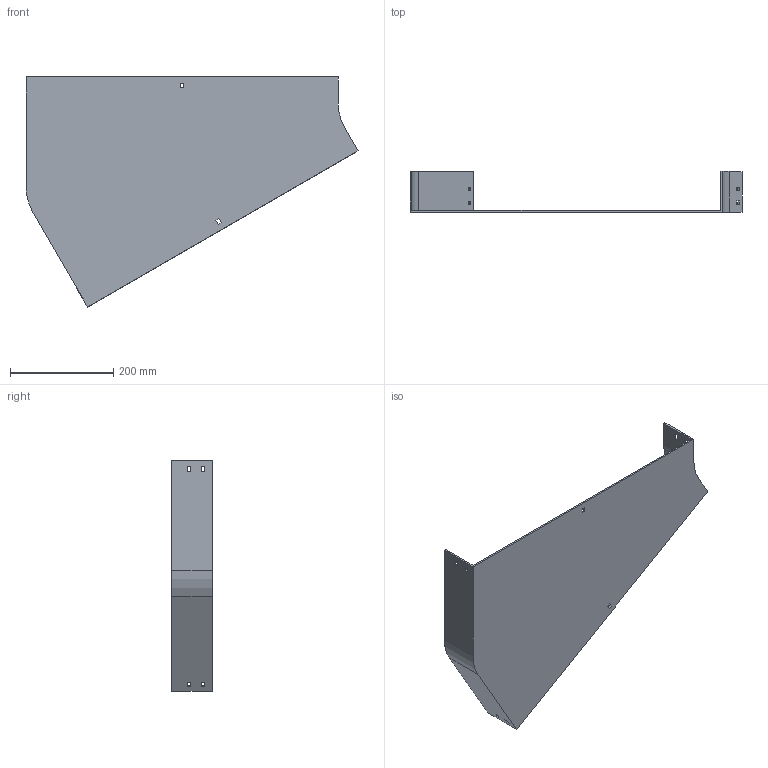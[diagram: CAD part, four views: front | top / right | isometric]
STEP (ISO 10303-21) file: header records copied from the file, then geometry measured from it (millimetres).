
FILE_DESCRIPTION (( 'STEP AP214' ), '1' );
FILE_NAME ('12B1C600.step', '2025-02-21T09:35:46', ( '' ), ( '' ), 'SwSTEP 2.0', 'SolidWorks 2023', '' );
FILE_SCHEMA (( 'AUTOMOTIVE_DESIGN' ));
Length unit declared in the file: millimetre
Products named in the file (1): 12B1C600
Bounding box: 642.4 x 79 x 445.3 mm (x, y, z)
Volume: 830507.3 mm3; surface area: 483229 mm2
Topology: 1 solids, 1 shells, 58 faces, 168 edges, 112 vertices
Faces by surface type: plane 54, cylinder 4
Entity records: 1943 total; most frequent: CARTESIAN_POINT 339, ORIENTED_EDGE 336, DIRECTION 294, EDGE_CURVE 168, VECTOR 160, LINE 160, VERTEX_POINT 112, EDGE_LOOP 78
